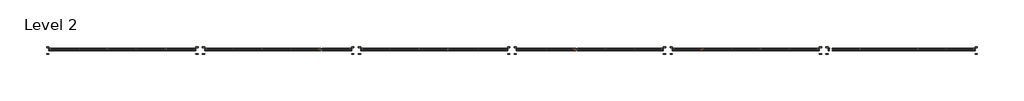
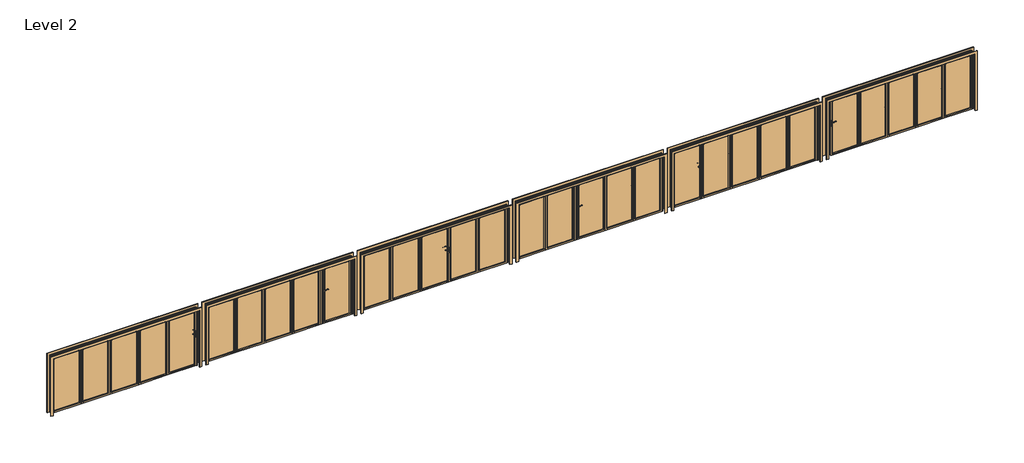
# One storey: 6 doors.
"""IFC4 building model written with IfcOpenShell, lengths in millimetres."""

from ifc_helpers import new_model, si_unit, origin, place, context, project, spatial, transform, mapped, element, save
from components import standard_ed4c91d5, standard_ed723b84, standard_4c84618e, standard_6c50d4af, standard_3cb3bd3f, standard_d55a6661, standard_f892411e, standard_054a6557, standard_1215e9c2, standard_bf076061

model = new_model("IFC4")

# Units and contexts
model_context = context("Model", 3, world=origin())
ifc_project = project(units=[si_unit("LENGTHUNIT", "METRE", prefix="MILLI")], contexts=[model_context])

# Site, building, storey
site = spatial("IfcSite", under=ifc_project)
building = spatial("IfcBuilding", under=site)
storey = spatial("IfcBuildingStorey", under=building, Name="Level 2", Elevation=3000.0)

# Doors
placement = place(None, origin())
standard_shape = standard_ed4c91d5(model_context)
standard_2_shape = standard_ed723b84(model_context)
element("IfcDoor", 1, ObjectType="SMARTS_Visofold1000 : Standard", at=placement, inside=storey, context=model_context, shape_type="MappedRepresentation", body=[
    mapped(standard_shape, transform((-169562.6139854, 24312.6264647, 3100.0), x_axis=(1.0, 0.0, 0.0), y_axis=(0.0, 1.0, 0.0), z_axis=(0.0, 0.0, 1.0))),
    mapped(standard_2_shape, transform((-169562.6139854, 24312.6264647, 3100.0), x_axis=(1.0, 0.0, 0.0), y_axis=(0.0, 1.0, 0.0), z_axis=(0.0, 0.0, 1.0))),
])
standard_3_shape = standard_4c84618e(model_context)
standard_4_shape = standard_6c50d4af(model_context)
element("IfcDoor", 2, ObjectType="SMARTS_Visofold1000 : Standard", at=placement, inside=storey, context=model_context, shape_type="MappedRepresentation", body=[
    mapped(standard_3_shape, transform((-185462.6139854, 24312.6264647, 3100.0), x_axis=(1.0, 0.0, 0.0), y_axis=(0.0, 1.0, 0.0), z_axis=(0.0, 0.0, 1.0))),
    mapped(standard_4_shape, transform((-185462.6139854, 24312.6264647, 3100.0), x_axis=(1.0, 0.0, 0.0), y_axis=(0.0, 1.0, 0.0), z_axis=(0.0, 0.0, 1.0))),
])
standard_5_shape = standard_3cb3bd3f(model_context)
standard_6_shape = standard_d55a6661(model_context)
element("IfcDoor", 3, ObjectType="SMARTS_Visofold1000 : Standard", at=placement, inside=storey, context=model_context, shape_type="MappedRepresentation", body=[
    mapped(standard_5_shape, transform((-180162.6139854, 24312.6264647, 3100.0), x_axis=(1.0, 0.0, 0.0), y_axis=(0.0, 1.0, 0.0), z_axis=(0.0, 0.0, 1.0))),
    mapped(standard_6_shape, transform((-180162.6139854, 24312.6264647, 3100.0), x_axis=(1.0, 0.0, 0.0), y_axis=(0.0, 1.0, 0.0), z_axis=(0.0, 0.0, 1.0))),
])
standard_7_shape = standard_f892411e(model_context)
element("IfcDoor", 4, ObjectType="SMARTS_Visofold1000 : Standard", at=placement, inside=storey, context=model_context, shape_type="MappedRepresentation", body=[
    mapped(standard_7_shape, transform((-174862.6139854, 24312.6264647, 3100.0), x_axis=(1.0, 0.0, 0.0), y_axis=(0.0, 1.0, 0.0), z_axis=(0.0, 0.0, 1.0))),
    mapped(standard_4_shape, transform((-174862.6139854, 24312.6264647, 3100.0), x_axis=(1.0, 0.0, 0.0), y_axis=(0.0, 1.0, 0.0), z_axis=(0.0, 0.0, 1.0))),
])
standard_8_shape = standard_054a6557(model_context)
standard_9_shape = standard_1215e9c2(model_context)
element("IfcDoor", 5, ObjectType="SMARTS_Visofold1000 : Standard", at=placement, inside=storey, context=model_context, shape_type="MappedRepresentation", body=[
    mapped(standard_8_shape, transform((-190762.6139854, 24312.6264647, 3100.0), x_axis=(1.0, 0.0, 0.0), y_axis=(0.0, 1.0, 0.0), z_axis=(0.0, 0.0, 1.0))),
    mapped(standard_9_shape, transform((-190762.6139854, 24312.6264647, 3100.0), x_axis=(1.0, 0.0, 0.0), y_axis=(0.0, 1.0, 0.0), z_axis=(0.0, 0.0, 1.0))),
])
standard_10_shape = standard_bf076061(model_context)
element("IfcDoor", 6, ObjectType="SMARTS_Visofold1000 : Standard", at=placement, inside=storey, context=model_context, shape_type="MappedRepresentation", body=[
    mapped(standard_10_shape, transform((-196062.6139854, 24312.6264647, 3100.0), x_axis=(1.0, 0.0, 0.0), y_axis=(0.0, 1.0, 0.0), z_axis=(0.0, 0.0, 1.0))),
    mapped(standard_4_shape, transform((-196062.6139854, 24312.6264647, 3100.0), x_axis=(1.0, 0.0, 0.0), y_axis=(0.0, 1.0, 0.0), z_axis=(0.0, 0.0, 1.0))),
])

save(model, "model.ifc")
